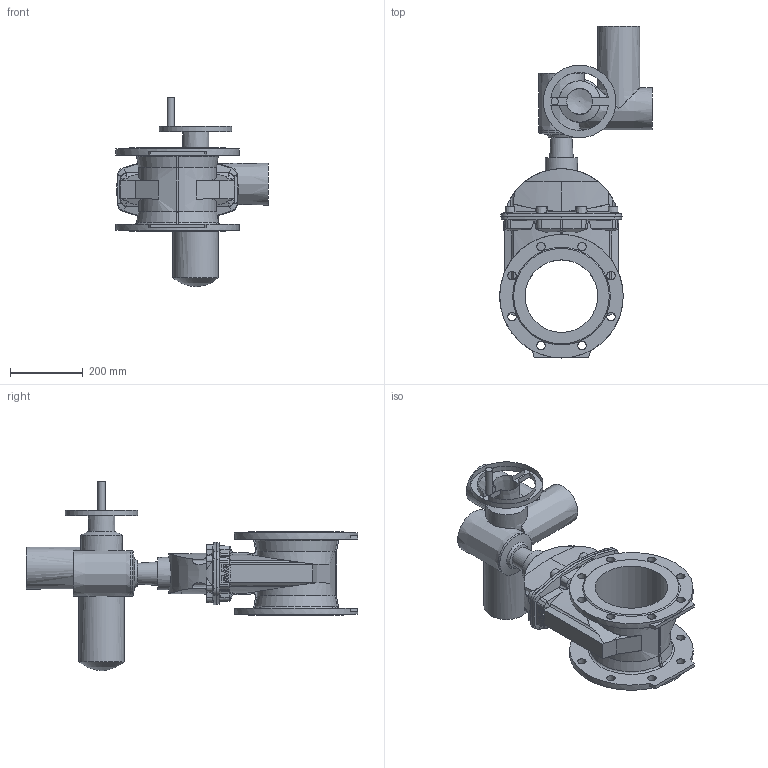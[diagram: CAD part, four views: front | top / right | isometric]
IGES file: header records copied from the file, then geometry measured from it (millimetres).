
Start section: SolidWorks IGES file using analytic representation for surfaces
Global section: file name: \\avksan2\techshare\PBM outline export from Enovia\O_15_42_DN200_X0XXX099_SA10.2_AA0.igs; native system: SolidWorks 2012; preprocessor: SolidWorks 2012; author: pbm; date: 170320.133934; units: inch
Bounding box: 420 x 914 x 521 mm (x, y, z)
Surface area: 1208558.9 mm2 (no closed solid volume)
Topology: 0 solids, 0 shells, 391 faces, 2209 edges, 2129 vertices
Faces by surface type: revolution 221, bspline 170
